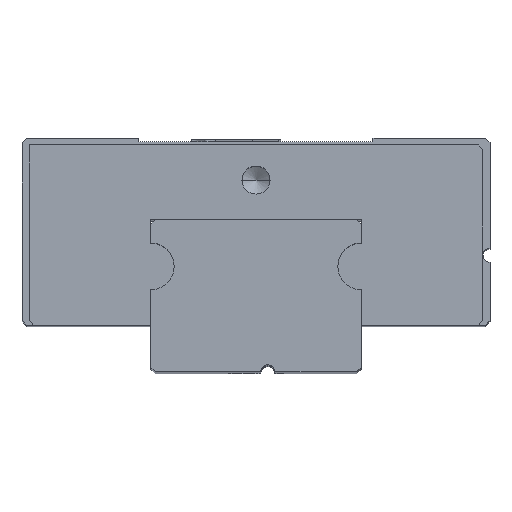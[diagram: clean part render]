
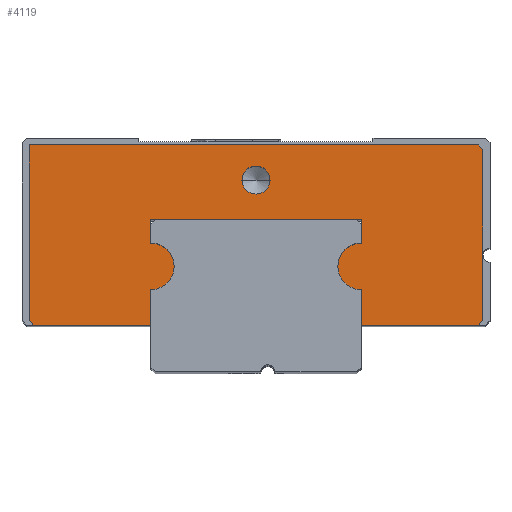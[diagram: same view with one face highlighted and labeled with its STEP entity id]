
A CAD part, top view. The second image highlights one B-rep face of the part: STEP entity #4119.
In plain terms, the highlighted planar face has unit normal (0, 0, 1).
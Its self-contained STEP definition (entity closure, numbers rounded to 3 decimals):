
#53 = CARTESIAN_POINT ( 'NONE',  ( 4.5, 3.5, 19.95 ) ) ;
#97 = LINE ( 'NONE', #6042, #3067 ) ;
#118 = ORIENTED_EDGE ( 'NONE', *, *, #8059, .F. ) ;
#164 = LINE ( 'NONE', #5293, #8459 ) ;
#229 = LINE ( 'NONE', #4380, #9568 ) ;
#251 = CARTESIAN_POINT ( 'NONE',  ( 4.5, 6.5, 19.95 ) ) ;
#401 = CARTESIAN_POINT ( 'NONE',  ( -9.5, 2., 19.95 ) ) ;
#455 = VERTEX_POINT ( 'NONE', #3509 ) ;
#539 = CIRCLE ( 'NONE', #8375, 1. ) ;
#632 = CARTESIAN_POINT ( 'NONE',  ( 0., 8.2, 19.95 ) ) ;
#717 = DIRECTION ( 'NONE',  ( 1., 0., 0. ) ) ;
#718 = DIRECTION ( 'NONE',  ( 0., 1., 0. ) ) ;
#730 = CARTESIAN_POINT ( 'NONE',  ( 4.5, 2., 19.95 ) ) ;
#733 = CARTESIAN_POINT ( 'NONE',  ( 9.7, 5., 19.95 ) ) ;
#768 = FACE_OUTER_BOUND ( 'NONE', #6550, .T. ) ;
#871 = CARTESIAN_POINT ( 'NONE',  ( 4.5, 6.5, 19.95 ) ) ;
#926 = DIRECTION ( 'NONE',  ( 0., 0., 1. ) ) ;
#991 = VECTOR ( 'NONE', #9745, 1000. ) ;
#995 = AXIS2_PLACEMENT_3D ( 'NONE', #8407, #926, #6147 ) ;
#1010 = VERTEX_POINT ( 'NONE', #7545 ) ;
#1062 = CARTESIAN_POINT ( 'NONE',  ( 4.5, 0., 19.95 ) ) ;
#1138 = LINE ( 'NONE', #7782, #9698 ) ;
#1178 = DIRECTION ( 'NONE',  ( 0.707, -0.707, 0. ) ) ;
#1271 = CARTESIAN_POINT ( 'NONE',  ( -4.5, 6.5, 19.95 ) ) ;
#1279 = VERTEX_POINT ( 'NONE', #3607 ) ;
#1332 = CARTESIAN_POINT ( 'NONE',  ( -9.5, 2., 19.95 ) ) ;
#1444 = VERTEX_POINT ( 'NONE', #871 ) ;
#1489 = AXIS2_PLACEMENT_3D ( 'NONE', #9161, #4077, #717 ) ;
#1508 = CARTESIAN_POINT ( 'NONE',  ( 0., 8.2, 19.95 ) ) ;
#1585 = CARTESIAN_POINT ( 'NONE',  ( 4.5, 5.5, 19.95 ) ) ;
#1973 = CARTESIAN_POINT ( 'NONE',  ( 4.5, 4.5, 19.95 ) ) ;
#1978 = VERTEX_POINT ( 'NONE', #730 ) ;
#2051 = ORIENTED_EDGE ( 'NONE', *, *, #4234, .T. ) ;
#2113 = VERTEX_POINT ( 'NONE', #7090 ) ;
#2139 = EDGE_LOOP ( 'NONE', ( #6806, #5830 ) ) ;
#2473 = CIRCLE ( 'NONE', #4714, 1. ) ;
#2608 = CARTESIAN_POINT ( 'NONE',  ( -9.7, 5., 19.95 ) ) ;
#2636 = VECTOR ( 'NONE', #2805, 1000. ) ;
#2677 = EDGE_CURVE ( 'NONE', #1279, #9102, #9625, .T. ) ;
#2680 = ORIENTED_EDGE ( 'NONE', *, *, #7507, .F. ) ;
#2703 = DIRECTION ( 'NONE',  ( -1., 0., 0. ) ) ;
#2724 = EDGE_CURVE ( 'NONE', #9795, #3366, #5523, .T. ) ;
#2805 = DIRECTION ( 'NONE',  ( 0., 1., 0. ) ) ;
#2855 = VERTEX_POINT ( 'NONE', #6831 ) ;
#2866 = DIRECTION ( 'NONE',  ( -1., 0., 0. ) ) ;
#2909 = VECTOR ( 'NONE', #4649, 1000. ) ;
#2936 = DIRECTION ( 'NONE',  ( -1., 0., 0. ) ) ;
#3056 = VECTOR ( 'NONE', #7921, 1000. ) ;
#3067 = VECTOR ( 'NONE', #10093, 1000. ) ;
#3081 = LINE ( 'NONE', #733, #8002 ) ;
#3105 = CARTESIAN_POINT ( 'NONE',  ( -0.6, 8.2, 19.95 ) ) ;
#3268 = PLANE ( 'NONE',  #1489 ) ;
#3317 = CARTESIAN_POINT ( 'NONE',  ( -4.5, 5.5, 19.95 ) ) ;
#3366 = VERTEX_POINT ( 'NONE', #9916 ) ;
#3379 = ORIENTED_EDGE ( 'NONE', *, *, #7712, .T. ) ;
#3446 = CARTESIAN_POINT ( 'NONE',  ( 10., 9.7, 19.95 ) ) ;
#3509 = CARTESIAN_POINT ( 'NONE',  ( -4.5, 6.5, 19.95 ) ) ;
#3607 = CARTESIAN_POINT ( 'NONE',  ( -9.7, 2.2, 19.95 ) ) ;
#3610 = LINE ( 'NONE', #1271, #3056 ) ;
#3728 = DIRECTION ( 'NONE',  ( 1., 0., 0. ) ) ;
#3750 = VERTEX_POINT ( 'NONE', #5287 ) ;
#3818 = ORIENTED_EDGE ( 'NONE', *, *, #5962, .T. ) ;
#3838 = DIRECTION ( 'NONE',  ( 0., 0., -1. ) ) ;
#3860 = EDGE_CURVE ( 'NONE', #2855, #7119, #164, .T. ) ;
#4061 = CARTESIAN_POINT ( 'NONE',  ( 9.7, 2.2, 19.95 ) ) ;
#4077 = DIRECTION ( 'NONE',  ( 0., 0., 1. ) ) ;
#4084 = ORIENTED_EDGE ( 'NONE', *, *, #9668, .T. ) ;
#4119 = ADVANCED_FACE ( 'NONE', ( #5005, #768 ), #3268, .T. ) ;
#4234 = EDGE_CURVE ( 'NONE', #1010, #3750, #539, .T. ) ;
#4374 = LINE ( 'NONE', #1062, #2636 ) ;
#4380 = CARTESIAN_POINT ( 'NONE',  ( 9.5, 9.7, 19.95 ) ) ;
#4481 = VERTEX_POINT ( 'NONE', #53 ) ;
#4519 = EDGE_CURVE ( 'NONE', #1978, #4481, #4374, .T. ) ;
#4622 = VECTOR ( 'NONE', #10021, 1000. ) ;
#4649 = DIRECTION ( 'NONE',  ( 0.707, -0.707, 0. ) ) ;
#4714 = AXIS2_PLACEMENT_3D ( 'NONE', #7063, #9627, #2866 ) ;
#4902 = EDGE_CURVE ( 'NONE', #8368, #7598, #5405, .T. ) ;
#4937 = ORIENTED_EDGE ( 'NONE', *, *, #8245, .F. ) ;
#5005 = FACE_BOUND ( 'NONE', #2139, .T. ) ;
#5150 = VECTOR ( 'NONE', #2936, 1000. ) ;
#5287 = CARTESIAN_POINT ( 'NONE',  ( 3.5, 4.5, 19.95 ) ) ;
#5293 = CARTESIAN_POINT ( 'NONE',  ( -4.5, 3.5, 19.95 ) ) ;
#5326 = LINE ( 'NONE', #251, #5150 ) ;
#5350 = DIRECTION ( 'NONE',  ( 0., -1., 0. ) ) ;
#5352 = ORIENTED_EDGE ( 'NONE', *, *, #4519, .F. ) ;
#5405 = CIRCLE ( 'NONE', #8721, 0.6 ) ;
#5523 = LINE ( 'NONE', #6498, #991 ) ;
#5713 = EDGE_CURVE ( 'NONE', #7598, #8368, #6438, .T. ) ;
#5728 = CARTESIAN_POINT ( 'NONE',  ( 9.5, 9.7, 19.95 ) ) ;
#5830 = ORIENTED_EDGE ( 'NONE', *, *, #5713, .T. ) ;
#5857 = LINE ( 'NONE', #2608, #4622 ) ;
#5901 = EDGE_CURVE ( 'NONE', #9275, #7303, #229, .T. ) ;
#5962 = EDGE_CURVE ( 'NONE', #9795, #7303, #3081, .T. ) ;
#6042 = CARTESIAN_POINT ( 'NONE',  ( 10., 2., 19.95 ) ) ;
#6147 = DIRECTION ( 'NONE',  ( -1., 0., 0. ) ) ;
#6349 = DIRECTION ( 'NONE',  ( 0., 0., -1. ) ) ;
#6436 = LINE ( 'NONE', #1585, #8167 ) ;
#6438 = CIRCLE ( 'NONE', #6791, 0.6 ) ;
#6441 = ORIENTED_EDGE ( 'NONE', *, *, #5901, .F. ) ;
#6498 = CARTESIAN_POINT ( 'NONE',  ( 9.7, 2.2, 19.95 ) ) ;
#6550 = EDGE_LOOP ( 'NONE', ( #2680, #2051, #4084, #5352, #9498, #8142, #3818, #6441, #10057, #8841, #10685, #3379, #9325, #9532, #4937, #118 ) ) ;
#6727 = CARTESIAN_POINT ( 'NONE',  ( -4.5, 2., 19.95 ) ) ;
#6791 = AXIS2_PLACEMENT_3D ( 'NONE', #1508, #6349, #10714 ) ;
#6806 = ORIENTED_EDGE ( 'NONE', *, *, #4902, .T. ) ;
#6831 = CARTESIAN_POINT ( 'NONE',  ( -4.5, 3.5, 19.95 ) ) ;
#7063 = CARTESIAN_POINT ( 'NONE',  ( -4.5, 4.5, 19.95 ) ) ;
#7090 = CARTESIAN_POINT ( 'NONE',  ( -9.7, 9.7, 19.95 ) ) ;
#7119 = VERTEX_POINT ( 'NONE', #6727 ) ;
#7120 = EDGE_CURVE ( 'NONE', #9275, #2113, #10065, .T. ) ;
#7149 = EDGE_CURVE ( 'NONE', #2855, #7677, #2473, .T. ) ;
#7303 = VERTEX_POINT ( 'NONE', #8967 ) ;
#7507 = EDGE_CURVE ( 'NONE', #1010, #1444, #6436, .T. ) ;
#7545 = CARTESIAN_POINT ( 'NONE',  ( 4.5, 5.5, 19.95 ) ) ;
#7575 = CIRCLE ( 'NONE', #995, 1. ) ;
#7598 = VERTEX_POINT ( 'NONE', #9385 ) ;
#7677 = VERTEX_POINT ( 'NONE', #3317 ) ;
#7712 = EDGE_CURVE ( 'NONE', #9102, #7119, #97, .T. ) ;
#7782 = CARTESIAN_POINT ( 'NONE',  ( 10., 2., 19.95 ) ) ;
#7921 = DIRECTION ( 'NONE',  ( 0., -1., 0. ) ) ;
#7926 = EDGE_CURVE ( 'NONE', #2113, #1279, #5857, .T. ) ;
#8002 = VECTOR ( 'NONE', #9743, 1000. ) ;
#8059 = EDGE_CURVE ( 'NONE', #1444, #455, #5326, .T. ) ;
#8142 = ORIENTED_EDGE ( 'NONE', *, *, #2724, .F. ) ;
#8167 = VECTOR ( 'NONE', #718, 1000. ) ;
#8245 = EDGE_CURVE ( 'NONE', #455, #7677, #3610, .T. ) ;
#8368 = VERTEX_POINT ( 'NONE', #3105 ) ;
#8375 = AXIS2_PLACEMENT_3D ( 'NONE', #1973, #8672, #10207 ) ;
#8407 = CARTESIAN_POINT ( 'NONE',  ( 4.5, 4.5, 19.95 ) ) ;
#8459 = VECTOR ( 'NONE', #5350, 1000. ) ;
#8672 = DIRECTION ( 'NONE',  ( 0., 0., 1. ) ) ;
#8721 = AXIS2_PLACEMENT_3D ( 'NONE', #632, #3838, #9810 ) ;
#8841 = ORIENTED_EDGE ( 'NONE', *, *, #7926, .T. ) ;
#8891 = EDGE_CURVE ( 'NONE', #1978, #3366, #1138, .T. ) ;
#8967 = CARTESIAN_POINT ( 'NONE',  ( 9.7, 9.5, 19.95 ) ) ;
#9102 = VERTEX_POINT ( 'NONE', #401 ) ;
#9161 = CARTESIAN_POINT ( 'NONE',  ( 10., 5., 19.95 ) ) ;
#9275 = VERTEX_POINT ( 'NONE', #5728 ) ;
#9325 = ORIENTED_EDGE ( 'NONE', *, *, #3860, .F. ) ;
#9385 = CARTESIAN_POINT ( 'NONE',  ( 0.6, 8.2, 19.95 ) ) ;
#9438 = VECTOR ( 'NONE', #2703, 1000. ) ;
#9498 = ORIENTED_EDGE ( 'NONE', *, *, #8891, .T. ) ;
#9532 = ORIENTED_EDGE ( 'NONE', *, *, #7149, .T. ) ;
#9568 = VECTOR ( 'NONE', #1178, 1000. ) ;
#9625 = LINE ( 'NONE', #1332, #2909 ) ;
#9627 = DIRECTION ( 'NONE',  ( 0., 0., 1. ) ) ;
#9668 = EDGE_CURVE ( 'NONE', #3750, #4481, #7575, .T. ) ;
#9698 = VECTOR ( 'NONE', #3728, 1000. ) ;
#9743 = DIRECTION ( 'NONE',  ( 0., 1., 0. ) ) ;
#9745 = DIRECTION ( 'NONE',  ( -0.707, -0.707, 0. ) ) ;
#9795 = VERTEX_POINT ( 'NONE', #4061 ) ;
#9810 = DIRECTION ( 'NONE',  ( -1., 0., 0. ) ) ;
#9916 = CARTESIAN_POINT ( 'NONE',  ( 9.5, 2., 19.95 ) ) ;
#10021 = DIRECTION ( 'NONE',  ( 0., -1., 0. ) ) ;
#10057 = ORIENTED_EDGE ( 'NONE', *, *, #7120, .T. ) ;
#10065 = LINE ( 'NONE', #3446, #9438 ) ;
#10093 = DIRECTION ( 'NONE',  ( 1., 0., 0. ) ) ;
#10207 = DIRECTION ( 'NONE',  ( -1., 0., 0. ) ) ;
#10685 = ORIENTED_EDGE ( 'NONE', *, *, #2677, .T. ) ;
#10714 = DIRECTION ( 'NONE',  ( -1., 0., 0. ) ) ;
